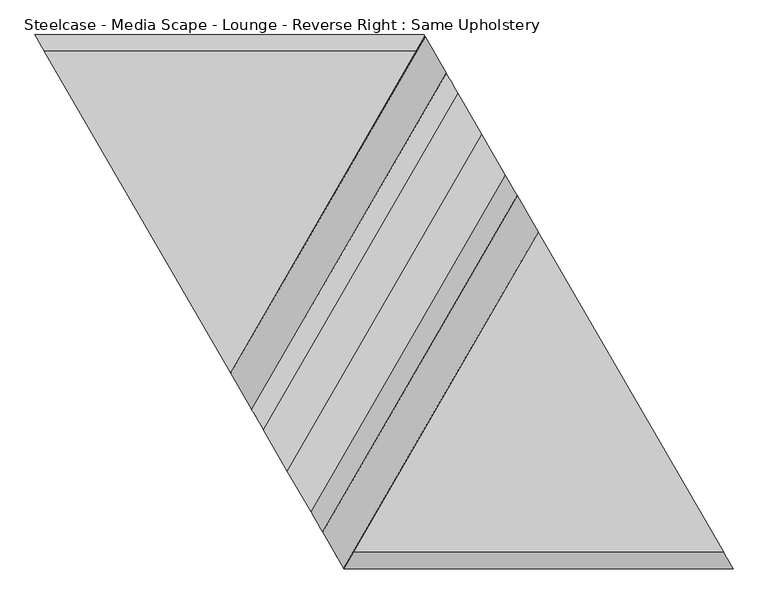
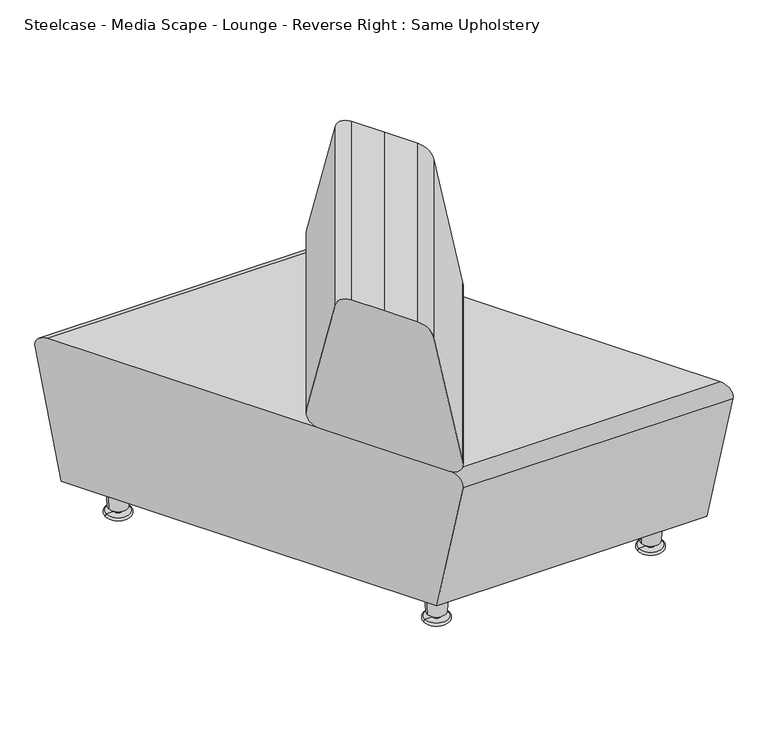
"""IFC4 building model written with IfcOpenShell, lengths in millimetres: furniture geometry, Steelcase - Media Scape - Lounge - Reverse Right : Same Upholstery."""

from ifc_helpers import new_model, si_unit, point, frame, origin, place, context, project, spatial, polyline, circle_curve, ellipse_curve, trimmed, source, transform, mapped, element, save
from ifc_brep_helpers import plane_surface, cylinder_surface, revolved_surface, advanced_brep


def steelcase_media_scape_lounge_reverse_right_same_upholstery_5d3c57fe(model_context):
    return source(origin(), model_context, "Body", "AdvancedBrep", [
        advanced_brep(
        [(-733.1515703, 217.760641, 734.4994984), (-429.8477806, 743.0982149, 734.4994984), (-447.8105654, 774.1513316, 709.2242876), (-751.1143551, 248.8137578, 709.2242876), (-480.6348772, 830.896274, 436.5550069), (-783.9386669, 305.5587001, 436.5550069), (-465.4772182, 804.6925109, 404.2995226), (-768.7810079, 279.3549371, 404.2995226), (-392.5844661, 678.6793583, 404.2995226), (-695.8882558, 153.3417845, 404.2995226), (-319.5651722, 552.447447, 404.2995226), (-622.8689619, 27.1098731, 404.2995226), (-304.4075131, 526.243684, 436.5550069), (-607.7113028, 0.9061101, 436.5550069), (-337.231825, 582.9886263, 709.2242876), (-640.5356147, 57.6510524, 709.2242876), (-355.1946098, 614.041743, 734.4994984), (-658.4983994, 88.7041692, 734.4994984), (-392.1305336, 677.8946237, 734.4994984), (-695.4343233, 152.5570499, 734.4994984)],
        [
            (0, 1),
            (1, 2, ellipse_curve(frame((-429.8477806, 743.0982149, 702.7494984), z_axis=(-0.8656115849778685, -0.5007160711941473, 0.0), x_axis=(0.5007160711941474, -0.8656115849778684, 0.0)), 36.6442572, 31.75)),
            (2, 3),
            (3, 0, ellipse_curve(frame((-733.1515703, 217.760641, 702.7494984), z_axis=(0.8656115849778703, 0.5007160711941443, 0.0), x_axis=(0.5007160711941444, -0.8656115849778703, 0.0)), 36.6442572, 31.75)),
            (2, 4),
            (4, 5),
            (5, 3),
            (4, 6, ellipse_curve(frame((-465.4772182, 804.6925109, 431.0913414), z_axis=(-0.8656115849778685, -0.5007160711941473, 0.0), x_axis=(0.5007160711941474, -0.8656115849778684, 0.0)), 30.9217732, 26.7918188)),
            (6, 7),
            (7, 5, ellipse_curve(frame((-768.7810079, 279.3549371, 431.0913414), z_axis=(0.8656115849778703, 0.5007160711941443, 0.0), x_axis=(0.5007160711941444, -0.8656115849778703, 0.0)), 30.9217732, 26.7918188)),
            (6, 8),
            (8, 9),
            (9, 7),
            (8, 10),
            (10, 11),
            (11, 9),
            (10, 12, ellipse_curve(frame((-319.5651722, 552.447447, 431.0913414), z_axis=(-0.8656115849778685, -0.5007160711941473, 0.0), x_axis=(0.5007160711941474, -0.8656115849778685, 0.0)), 30.9217732, 26.7918188)),
            (12, 13),
            (13, 11, ellipse_curve(frame((-622.8689619, 27.1098731, 431.0913414), z_axis=(0.8656115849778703, 0.5007160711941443, 0.0), x_axis=(0.5007160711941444, -0.8656115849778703, 0.0)), 30.9217732, 26.7918188)),
            (12, 14),
            (14, 15),
            (15, 13),
            (14, 16, ellipse_curve(frame((-355.1946098, 614.041743, 702.7494984), z_axis=(-0.8656115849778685, -0.5007160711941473, 0.0), x_axis=(0.5007160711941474, -0.8656115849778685, 0.0)), 36.6442572, 31.75)),
            (16, 17),
            (17, 15, ellipse_curve(frame((-658.4983994, 88.7041692, 702.7494984), z_axis=(0.8656115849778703, 0.5007160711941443, 0.0), x_axis=(0.5007160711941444, -0.8656115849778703, 0.0)), 36.6442572, 31.75)),
            (16, 18),
            (18, 19),
            (19, 17),
            (0, 19),
            (18, 1),
        ],
        [
            cylinder_surface(frame((-403.3023082, 789.0763219, 702.7494984), z_axis=(-0.49999999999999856, -0.8660254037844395, 0.0), x_axis=(-0.8660254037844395, 0.49999999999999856, 0.0)), 31.75),
            plane_surface(frame((-823.2526585, 123.8665511, 709.2242876), z_axis=(-0.8478262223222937, 0.489492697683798, 0.20393036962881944), x_axis=(0.49999999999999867, 0.8660254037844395, 0.0))),
            cylinder_surface(frame((-456.6954989, 819.902895, 431.0913414), z_axis=(-0.49999999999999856, -0.8660254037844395, 0.0), x_axis=(-0.8660254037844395, 0.49999999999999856, 0.0)), 26.7918188),
            plane_surface(frame((-849.7273666, 139.151731, 404.2995226), z_axis=(0.0, 0.0, -1.0), x_axis=(0.4999999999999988, 0.8660254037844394, 0.0))),
            plane_surface(frame((-740.4925069, 76.0849553, 404.2995226), z_axis=(0.0, 0.0, -1.0), x_axis=(0.49999999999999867, 0.8660254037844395, 0.0))),
            cylinder_surface(frame((-238.0361477, 693.6598597, 431.0913414), z_axis=(-0.4999999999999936, -0.8660254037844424, 0.0), x_axis=(0.8660254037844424, -0.4999999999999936, 0.0)), 26.7918188),
            plane_surface(frame((-608.353209, -0.2057039, 436.5550069), z_axis=(0.8478262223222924, -0.4894926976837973, 0.20393036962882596), x_axis=(0.49999999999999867, 0.8660254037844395, 0.0))),
            cylinder_surface(frame((-291.4293384, 724.4864327, 702.7494984), z_axis=(-0.4999999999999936, -0.8660254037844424, 0.0), x_axis=(0.8660254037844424, -0.4999999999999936, 0.0)), 31.75),
            plane_surface(frame((-684.4612062, 43.7352688, 734.4994984), z_axis=(0.0, 0.0, 1.0), x_axis=(0.4999999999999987, 0.8660254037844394, 0.0))),
            plane_surface(frame((-739.8122575, 75.6922131, 734.4994984), z_axis=(0.0, 0.0, 1.0), x_axis=(0.4999999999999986, 0.8660254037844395, 0.0))),
            plane_surface(frame((-281.4622448, -563.0960868, 914.4), z_axis=(-0.8656115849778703, -0.5007160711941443, 0.0), x_axis=(0.0, 0.0, -1.0))),
            plane_surface(frame((-511.7600957, 884.7039132, 914.4), z_axis=(0.8656115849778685, 0.5007160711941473, 0.0), x_axis=(0.0, 0.0, -1.0))),
        ],
        [
            (0, [[1, 2, 3, 4]]),
            (1, [[-3, 5, 6, 7]]),
            (2, [[-6, 8, 9, 10]]),
            (3, [[-9, 11, 12, 13]]),
            (4, [[-12, 14, 15, 16]]),
            (5, [[-15, 17, 18, 19]]),
            (6, [[-18, 20, 21, 22]]),
            (7, [[-21, 23, 24, 25]]),
            (8, [[-24, 26, 27, 28]]),
            (9, [[-1, 29, -27, 30]]),
            (10, [[-4, -7, -10, -13, -16, -19, -22, -25, -28, -29]]),
            (11, [[-2, -30, -26, -23, -20, -17, -14, -11, -8, -5]]),
        ],
    ),
        advanced_brep(
        [(-1059.8466558, 782.5339068, 74.676), (-452.6594956, 782.5339068, 74.676), (-29.7158278, 51.3711588, 74.676), (-636.9029881, 51.3711588, 74.676), (-0.234325, 0.4050887, 374.7917281), (-607.4214852, 0.4050887, 374.7917281), (-14.7196556, 25.4465658, 404.4443065), (-621.9068159, 25.4465658, 404.4443065), (-467.6556677, 808.4584998, 404.4443065), (-1074.842828, 808.4584998, 404.4443065), (-482.1409984, 833.4999769, 374.7917281), (-1089.3281586, 833.4999769, 374.7917281)],
        [
            (0, 1),
            (1, 2),
            (2, 3),
            (3, 0),
            (2, 4),
            (4, 5),
            (5, 3),
            (4, 6, ellipse_curve(frame((-14.7196556, 25.4465658, 379.0443065), z_axis=(-0.8656115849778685, -0.5007160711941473, 0.0), x_axis=(-0.5007160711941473, 0.8656115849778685, 0.0)), 29.343415, 25.4)),
            (6, 7),
            (7, 5, ellipse_curve(frame((-621.9068159, 25.4465658, 379.0443065), z_axis=(0.8656115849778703, 0.5007160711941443, 0.0), x_axis=(-0.5007160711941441, 0.8656115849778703, 0.0)), 29.343415, 25.4)),
            (6, 8),
            (8, 9),
            (9, 7),
            (8, 10, ellipse_curve(frame((-467.6556677, 808.4584998, 379.0443065), z_axis=(-0.8656115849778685, -0.5007160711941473, 0.0), x_axis=(-0.5007160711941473, 0.8656115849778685, 0.0)), 29.343415, 25.4)),
            (10, 11),
            (11, 9, ellipse_curve(frame((-1074.842828, 808.4584998, 379.0443065), z_axis=(0.8656115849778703, 0.5007160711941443, 0.0), x_axis=(-0.5007160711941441, 0.8656115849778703, 0.0)), 29.343415, 25.4)),
            (0, 11),
            (10, 1),
        ],
        [
            plane_surface(frame((-1094.6230669, 782.5339068, 74.676), z_axis=(0.0, 0.0, -1.0), x_axis=(1.0, 0.0, 0.0))),
            plane_surface(frame((-1094.6230669, 51.3711588, 74.676), z_axis=(0.0, -0.9858849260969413, -0.16742434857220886), x_axis=(1.0, 0.0, 0.0))),
            cylinder_surface(frame((0.0, 25.4465658, 379.0443065), z_axis=(-1.0, 0.0, 0.0), x_axis=(0.0, -1.0, 0.0)), 25.4),
            plane_surface(frame((-1094.6230669, 25.4465658, 404.4443065), z_axis=(0.0, 0.0, 1.0), x_axis=(1.0, 0.0, 0.0))),
            cylinder_surface(frame((0.0, 808.4584998, 379.0443065), z_axis=(-1.0, 0.0, 0.0), x_axis=(0.0, 1.0, 0.0)), 25.4),
            plane_surface(frame((-1094.6230669, 833.4999769, 374.7917281), z_axis=(0.0, 0.9858849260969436, -0.16742434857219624), x_axis=(1.0, 0.0, 0.0))),
            plane_surface(frame((-281.4622448, -563.0960868, 914.4), z_axis=(-0.8656115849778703, -0.5007160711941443, 0.0), x_axis=(0.0, 0.0, -1.0))),
            plane_surface(frame((-511.7600957, 884.7039132, 914.4), z_axis=(0.8656115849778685, 0.5007160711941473, 0.0), x_axis=(0.0, 0.0, -1.0))),
        ],
        [
            (0, [[1, 2, 3, 4]]),
            (1, [[-3, 5, 6, 7]]),
            (2, [[-6, 8, 9, 10]]),
            (3, [[-9, 11, 12, 13]]),
            (4, [[-12, 14, 15, 16]]),
            (5, [[-1, 17, -15, 18]]),
            (6, [[-4, -7, -10, -13, -16, -17]]),
            (7, [[-2, -18, -14, -11, -8, -5]]),
        ],
    ),
        advanced_brep(
        [(-943.0462782, 727.1583042, 17.057519), (-984.9565107, 727.1583042, 17.057519), (-987.7883146, 727.1583042, 74.1561731), (-940.2144743, 727.1583042, 74.1561731), (-954.4763944, 727.1583042, 17.057519), (-973.5263944, 727.1583042, 17.057519), (-954.4763944, 727.1583042, 6.3788302), (-973.5263944, 727.1583042, 6.3788302), (-937.9477522, 727.1583042, 6.3788302), (-990.0550367, 727.1583042, 6.3788302), (-937.9477522, 727.1583042, 0.0), (-990.0550367, 727.1583042, 0.0), (-964.0013944, 727.1583042, 0.0), (-964.0013944, 727.1583042, 74.1561731)],
        [
            (0, 1, circle_curve(frame((-964.0013944, 727.1583042, 17.057519), z_axis=(0.0, 0.0, 1.0), x_axis=(-1.0, 0.0, 0.0)), 20.9551163)),
            (1, 2),
            (2, 3, circle_curve(frame((-964.0013944, 727.1583042, 74.1561731), z_axis=(0.0, 0.0, -1.0), x_axis=(-1.0, 0.0, 0.0)), 23.7869202)),
            (3, 0),
            (1, 0, circle_curve(frame((-964.0013944, 727.1583042, 17.057519), z_axis=(0.0, 0.0, 1.0), x_axis=(-1.0, 0.0, 0.0)), 20.9551163)),
            (3, 2, circle_curve(frame((-964.0013944, 727.1583042, 74.1561731), z_axis=(0.0, 0.0, -1.0), x_axis=(-1.0, 0.0, 0.0)), 23.7869202)),
            (0, 4),
            (4, 5, circle_curve(frame((-964.0013944, 727.1583042, 17.057519), z_axis=(0.0, 0.0, 1.0), x_axis=(-1.0, 0.0, 0.0)), 9.525)),
            (5, 1),
            (5, 4, circle_curve(frame((-964.0013944, 727.1583042, 17.057519), z_axis=(0.0, 0.0, 1.0), x_axis=(-1.0, 0.0, 0.0)), 9.525)),
            (4, 6),
            (6, 7, circle_curve(frame((-964.0013944, 727.1583042, 6.3788302), z_axis=(0.0, 0.0, 1.0), x_axis=(-1.0, 0.0, 0.0)), 9.525)),
            (7, 5),
            (7, 6, circle_curve(frame((-964.0013944, 727.1583042, 6.3788302), z_axis=(0.0, 0.0, 1.0), x_axis=(-1.0, 0.0, 0.0)), 9.525)),
            (6, 8),
            (8, 9, circle_curve(frame((-964.0013944, 727.1583042, 6.3788302), z_axis=(0.0, 0.0, 1.0), x_axis=(-1.0, 0.0, 0.0)), 26.0536423)),
            (9, 7),
            (9, 8, circle_curve(frame((-964.0013944, 727.1583042, 6.3788302), z_axis=(0.0, 0.0, 1.0), x_axis=(-1.0, 0.0, 0.0)), 26.0536423)),
            (8, 10, circle_curve(frame((-937.9477522, 727.1583042, 3.1894151), z_axis=(0.0, 1.0, 0.0), x_axis=(1.0, 0.0, 0.0)), 3.1894151)),
            (10, 11, circle_curve(frame((-964.0013944, 727.1583042, 0.0), z_axis=(0.0, 0.0, 1.0), x_axis=(-1.0, 0.0, 0.0)), 26.0536423)),
            (11, 9, circle_curve(frame((-990.0550367, 727.1583042, 3.1894151), z_axis=(0.0, 1.0, 0.0), x_axis=(-1.0, 0.0, 0.0)), 3.1894151)),
            (11, 10, circle_curve(frame((-964.0013944, 727.1583042, 0.0), z_axis=(0.0, 0.0, 1.0), x_axis=(-1.0, 0.0, 0.0)), 26.0536423)),
            (10, 12),
            (12, 11),
            (2, 13),
            (13, 3),
        ],
        [
            revolved_surface(polyline([(-987.7883146, 727.1583042, 74.1561731), (-984.9565107, 727.1583042, 17.057519)]), (-964.0013944, 727.1583042, 61.4561731), (0.0, 0.0, -1.0)),
            plane_surface(frame((-964.0013944, 727.1583042, 17.057519), z_axis=(0.0, 0.0, -1.0), x_axis=(-1.0, 0.0, 0.0))),
            cylinder_surface(frame((-964.0013944, 727.1583042, 61.4561731), z_axis=(0.0, 0.0, -1.0), x_axis=(-1.0, 0.0, 0.0)), 9.525),
            plane_surface(frame((-964.0013944, 727.1583042, 6.3788302), z_axis=(0.0, 0.0, 1.0), x_axis=(-1.0, 0.0, 0.0))),
            revolved_surface(trimmed(ellipse_curve(frame((-990.0550367, 727.1583042, 3.1894151), z_axis=(0.0, -1.0, 0.0), x_axis=(-1.0, 0.0, 0.0)), 3.1894151, 3.1894151), [point((-990.0550367, 727.1583042, 6.3788302))], [point((-990.0550367, 727.1583042, 0.0))], True, "CARTESIAN"), (-964.0013944, 727.1583042, 61.4561731), (0.0, 0.0, -1.0)),
            plane_surface(frame((-964.0013944, 727.1583042, 0.0), z_axis=(0.0, 0.0, -1.0), x_axis=(-1.0, 0.0, 0.0))),
            plane_surface(frame((-964.0013944, 727.1583042, 74.1561731), z_axis=(0.0, 0.0, 1.0), x_axis=(-1.0, 0.0, 0.0))),
        ],
        [
            (0, [[1, 2, 3, 4]]),
            (0, [[-2, 5, -4, 6]]),
            (1, [[-1, 7, 8, 9]]),
            (1, [[-5, -9, 10, -7]]),
            (2, [[-8, 11, 12, 13]]),
            (2, [[-10, -13, 14, -11]]),
            (3, [[-12, 15, 16, 17]]),
            (3, [[-14, -17, 18, -15]]),
            (4, [[-16, 19, 20, 21]]),
            (4, [[-18, -21, 22, -19]]),
            (5, [[-20, 23, 24]]),
            (5, [[-22, -24, -23]]),
            (6, [[-3, 25, 26]]),
            (6, [[-6, -26, -25]]),
        ],
    ),
        advanced_brep(
        [(-461.2460355, 727.1583042, 17.057519), (-503.1562681, 727.1583042, 17.057519), (-505.988072, 727.1583042, 74.1561731), (-458.4142317, 727.1583042, 74.1561731), (-472.6761518, 727.1583042, 17.057519), (-491.7261518, 727.1583042, 17.057519), (-472.6761518, 727.1583042, 6.3788302), (-491.7261518, 727.1583042, 6.3788302), (-456.1475095, 727.1583042, 6.3788302), (-508.2547941, 727.1583042, 6.3788302), (-456.1475095, 727.1583042, 0.0), (-508.2547941, 727.1583042, 0.0), (-482.2011518, 727.1583042, 0.0), (-482.2011518, 727.1583042, 74.1561731)],
        [
            (0, 1, circle_curve(frame((-482.2011518, 727.1583042, 17.057519), z_axis=(0.0, 0.0, 1.0), x_axis=(-1.0, 0.0, 0.0)), 20.9551163)),
            (1, 2),
            (2, 3, circle_curve(frame((-482.2011518, 727.1583042, 74.1561731), z_axis=(0.0, 0.0, -1.0), x_axis=(-1.0, 0.0, 0.0)), 23.7869202)),
            (3, 0),
            (1, 0, circle_curve(frame((-482.2011518, 727.1583042, 17.057519), z_axis=(0.0, 0.0, 1.0), x_axis=(-1.0, 0.0, 0.0)), 20.9551163)),
            (3, 2, circle_curve(frame((-482.2011518, 727.1583042, 74.1561731), z_axis=(0.0, 0.0, -1.0), x_axis=(-1.0, 0.0, 0.0)), 23.7869202)),
            (0, 4),
            (4, 5, circle_curve(frame((-482.2011518, 727.1583042, 17.057519), z_axis=(0.0, 0.0, 1.0), x_axis=(-1.0, 0.0, 0.0)), 9.525)),
            (5, 1),
            (5, 4, circle_curve(frame((-482.2011518, 727.1583042, 17.057519), z_axis=(0.0, 0.0, 1.0), x_axis=(-1.0, 0.0, 0.0)), 9.525)),
            (4, 6),
            (6, 7, circle_curve(frame((-482.2011518, 727.1583042, 6.3788302), z_axis=(0.0, 0.0, 1.0), x_axis=(-1.0, 0.0, 0.0)), 9.525)),
            (7, 5),
            (7, 6, circle_curve(frame((-482.2011518, 727.1583042, 6.3788302), z_axis=(0.0, 0.0, 1.0), x_axis=(-1.0, 0.0, 0.0)), 9.525)),
            (6, 8),
            (8, 9, circle_curve(frame((-482.2011518, 727.1583042, 6.3788302), z_axis=(0.0, 0.0, 1.0), x_axis=(-1.0, 0.0, 0.0)), 26.0536423)),
            (9, 7),
            (9, 8, circle_curve(frame((-482.2011518, 727.1583042, 6.3788302), z_axis=(0.0, 0.0, 1.0), x_axis=(-1.0, 0.0, 0.0)), 26.0536423)),
            (8, 10, circle_curve(frame((-456.1475095, 727.1583042, 3.1894151), z_axis=(0.0, 1.0, 0.0), x_axis=(1.0, 0.0, 0.0)), 3.1894151)),
            (10, 11, circle_curve(frame((-482.2011518, 727.1583042, 0.0), z_axis=(0.0, 0.0, 1.0), x_axis=(-1.0, 0.0, 0.0)), 26.0536423)),
            (11, 9, circle_curve(frame((-508.2547941, 727.1583042, 3.1894151), z_axis=(0.0, 1.0, 0.0), x_axis=(-1.0, 0.0, 0.0)), 3.1894151)),
            (11, 10, circle_curve(frame((-482.2011518, 727.1583042, 0.0), z_axis=(0.0, 0.0, 1.0), x_axis=(-1.0, 0.0, 0.0)), 26.0536423)),
            (10, 12),
            (12, 11),
            (2, 13),
            (13, 3),
        ],
        [
            revolved_surface(polyline([(-505.988072, 727.1583042, 74.1561731), (-503.1562681, 727.1583042, 17.057519)]), (-482.2011518, 727.1583042, 61.4561731), (0.0, 0.0, -1.0)),
            plane_surface(frame((-482.2011518, 727.1583042, 17.057519), z_axis=(0.0, 0.0, -1.0), x_axis=(-1.0, 0.0, 0.0))),
            cylinder_surface(frame((-482.2011518, 727.1583042, 61.4561731), z_axis=(0.0, 0.0, -1.0), x_axis=(-1.0, 0.0, 0.0)), 9.525),
            plane_surface(frame((-482.2011518, 727.1583042, 6.3788302), z_axis=(0.0, 0.0, 1.0), x_axis=(-1.0, 0.0, 0.0))),
            revolved_surface(trimmed(ellipse_curve(frame((-508.2547941, 727.1583042, 3.1894151), z_axis=(0.0, -1.0, 0.0), x_axis=(-1.0, 0.0, 0.0)), 3.1894151, 3.1894151), [point((-508.2547941, 727.1583042, 6.3788302))], [point((-508.2547941, 727.1583042, 0.0))], True, "CARTESIAN"), (-482.2011518, 727.1583042, 61.4561731), (0.0, 0.0, -1.0)),
            plane_surface(frame((-482.2011518, 727.1583042, 0.0), z_axis=(0.0, 0.0, -1.0), x_axis=(-1.0, 0.0, 0.0))),
            plane_surface(frame((-482.2011518, 727.1583042, 74.1561731), z_axis=(0.0, 0.0, 1.0), x_axis=(-1.0, 0.0, 0.0))),
        ],
        [
            (0, [[1, 2, 3, 4]]),
            (0, [[-2, 5, -4, 6]]),
            (1, [[-1, 7, 8, 9]]),
            (1, [[-5, -9, 10, -7]]),
            (2, [[-8, 11, 12, 13]]),
            (2, [[-10, -13, 14, -11]]),
            (3, [[-12, 15, 16, 17]]),
            (3, [[-14, -17, 18, -15]]),
            (4, [[-16, 19, 20, 21]]),
            (4, [[-18, -21, 22, -19]]),
            (5, [[-20, 23, 24]]),
            (5, [[-22, -24, -23]]),
            (6, [[-3, 25, 26]]),
            (6, [[-6, -26, -25]]),
        ],
    ),
        advanced_brep(
        [(-584.810005, 106.9669449, 17.057519), (-626.7202375, 106.9669449, 17.057519), (-629.5520414, 106.9669449, 74.1561731), (-581.9782011, 106.9669449, 74.1561731), (-596.2401212, 106.9669449, 17.057519), (-615.2901212, 106.9669449, 17.057519), (-596.2401212, 106.9669449, 6.3788302), (-615.2901212, 106.9669449, 6.3788302), (-579.711479, 106.9669449, 6.3788302), (-631.8187635, 106.9669449, 6.3788302), (-579.711479, 106.9669449, 0.0), (-631.8187635, 106.9669449, 0.0), (-605.7651212, 106.9669449, 0.0), (-605.7651212, 106.9669449, 74.1561731)],
        [
            (0, 1, circle_curve(frame((-605.7651212, 106.9669449, 17.057519), z_axis=(0.0, 0.0, 1.0), x_axis=(-1.0, 0.0, 0.0)), 20.9551163)),
            (1, 2),
            (2, 3, circle_curve(frame((-605.7651212, 106.9669449, 74.1561731), z_axis=(0.0, 0.0, -1.0), x_axis=(-1.0, 0.0, 0.0)), 23.7869202)),
            (3, 0),
            (1, 0, circle_curve(frame((-605.7651212, 106.9669449, 17.057519), z_axis=(0.0, 0.0, 1.0), x_axis=(-1.0, 0.0, 0.0)), 20.9551163)),
            (3, 2, circle_curve(frame((-605.7651212, 106.9669449, 74.1561731), z_axis=(0.0, 0.0, -1.0), x_axis=(-1.0, 0.0, 0.0)), 23.7869202)),
            (0, 4),
            (4, 5, circle_curve(frame((-605.7651212, 106.9669449, 17.057519), z_axis=(0.0, 0.0, 1.0), x_axis=(-1.0, 0.0, 0.0)), 9.525)),
            (5, 1),
            (5, 4, circle_curve(frame((-605.7651212, 106.9669449, 17.057519), z_axis=(0.0, 0.0, 1.0), x_axis=(-1.0, 0.0, 0.0)), 9.525)),
            (4, 6),
            (6, 7, circle_curve(frame((-605.7651212, 106.9669449, 6.3788302), z_axis=(0.0, 0.0, 1.0), x_axis=(-1.0, 0.0, 0.0)), 9.525)),
            (7, 5),
            (7, 6, circle_curve(frame((-605.7651212, 106.9669449, 6.3788302), z_axis=(0.0, 0.0, 1.0), x_axis=(-1.0, 0.0, 0.0)), 9.525)),
            (6, 8),
            (8, 9, circle_curve(frame((-605.7651212, 106.9669449, 6.3788302), z_axis=(0.0, 0.0, 1.0), x_axis=(-1.0, 0.0, 0.0)), 26.0536423)),
            (9, 7),
            (9, 8, circle_curve(frame((-605.7651212, 106.9669449, 6.3788302), z_axis=(0.0, 0.0, 1.0), x_axis=(-1.0, 0.0, 0.0)), 26.0536423)),
            (8, 10, circle_curve(frame((-579.711479, 106.9669449, 3.1894151), z_axis=(0.0, 1.0, 0.0), x_axis=(1.0, 0.0, 0.0)), 3.1894151)),
            (10, 11, circle_curve(frame((-605.7651212, 106.9669449, 0.0), z_axis=(0.0, 0.0, 1.0), x_axis=(-1.0, 0.0, 0.0)), 26.0536423)),
            (11, 9, circle_curve(frame((-631.8187635, 106.9669449, 3.1894151), z_axis=(0.0, 1.0, 0.0), x_axis=(-1.0, 0.0, 0.0)), 3.1894151)),
            (11, 10, circle_curve(frame((-605.7651212, 106.9669449, 0.0), z_axis=(0.0, 0.0, 1.0), x_axis=(-1.0, 0.0, 0.0)), 26.0536423)),
            (10, 12),
            (12, 11),
            (2, 13),
            (13, 3),
        ],
        [
            revolved_surface(polyline([(-629.5520414, 106.9669449, 74.1561731), (-626.7202375, 106.9669449, 17.057519)]), (-605.7651212, 106.9669449, 61.4561731), (0.0, 0.0, -1.0)),
            plane_surface(frame((-605.7651212, 106.9669449, 17.057519), z_axis=(0.0, 0.0, -1.0), x_axis=(-1.0, 0.0, 0.0))),
            cylinder_surface(frame((-605.7651212, 106.9669449, 61.4561731), z_axis=(0.0, 0.0, -1.0), x_axis=(-1.0, 0.0, 0.0)), 9.525),
            plane_surface(frame((-605.7651212, 106.9669449, 6.3788302), z_axis=(0.0, 0.0, 1.0), x_axis=(-1.0, 0.0, 0.0))),
            revolved_surface(trimmed(ellipse_curve(frame((-631.8187635, 106.9669449, 3.1894151), z_axis=(0.0, -1.0, 0.0), x_axis=(-1.0, 0.0, 0.0)), 3.1894151, 3.1894151), [point((-631.8187635, 106.9669449, 6.3788302))], [point((-631.8187635, 106.9669449, 0.0))], True, "CARTESIAN"), (-605.7651212, 106.9669449, 61.4561731), (0.0, 0.0, -1.0)),
            plane_surface(frame((-605.7651212, 106.9669449, 0.0), z_axis=(0.0, 0.0, -1.0), x_axis=(-1.0, 0.0, 0.0))),
            plane_surface(frame((-605.7651212, 106.9669449, 74.1561731), z_axis=(0.0, 0.0, 1.0), x_axis=(-1.0, 0.0, 0.0))),
        ],
        [
            (0, [[1, 2, 3, 4]]),
            (0, [[-2, 5, -4, 6]]),
            (1, [[-1, 7, 8, 9]]),
            (1, [[-5, -9, 10, -7]]),
            (2, [[-8, 11, 12, 13]]),
            (2, [[-10, -13, 14, -11]]),
            (3, [[-12, 15, 16, 17]]),
            (3, [[-14, -17, 18, -15]]),
            (4, [[-16, 19, 20, 21]]),
            (4, [[-18, -21, 22, -19]]),
            (5, [[-20, 23, 24]]),
            (5, [[-22, -24, -23]]),
            (6, [[-3, 25, 26]]),
            (6, [[-6, -26, -25]]),
        ],
    ),
        advanced_brep(
        [(-103.0097624, 106.9669449, 17.057519), (-144.9199949, 106.9669449, 17.057519), (-147.7517988, 106.9669449, 74.1561731), (-100.1779585, 106.9669449, 74.1561731), (-114.4398786, 106.9669449, 17.057519), (-133.4898786, 106.9669449, 17.057519), (-114.4398786, 106.9669449, 6.3788302), (-133.4898786, 106.9669449, 6.3788302), (-97.9112364, 106.9669449, 6.3788302), (-150.0185209, 106.9669449, 6.3788302), (-97.9112364, 106.9669449, 0.0), (-150.0185209, 106.9669449, 0.0), (-123.9648786, 106.9669449, 0.0), (-123.9648786, 106.9669449, 74.1561731)],
        [
            (0, 1, circle_curve(frame((-123.9648786, 106.9669449, 17.057519), z_axis=(0.0, 0.0, 1.0), x_axis=(-1.0, 0.0, 0.0)), 20.9551163)),
            (1, 2),
            (2, 3, circle_curve(frame((-123.9648786, 106.9669449, 74.1561731), z_axis=(0.0, 0.0, -1.0), x_axis=(-1.0, 0.0, 0.0)), 23.7869202)),
            (3, 0),
            (1, 0, circle_curve(frame((-123.9648786, 106.9669449, 17.057519), z_axis=(0.0, 0.0, 1.0), x_axis=(-1.0, 0.0, 0.0)), 20.9551163)),
            (3, 2, circle_curve(frame((-123.9648786, 106.9669449, 74.1561731), z_axis=(0.0, 0.0, -1.0), x_axis=(-1.0, 0.0, 0.0)), 23.7869202)),
            (0, 4),
            (4, 5, circle_curve(frame((-123.9648786, 106.9669449, 17.057519), z_axis=(0.0, 0.0, 1.0), x_axis=(-1.0, 0.0, 0.0)), 9.525)),
            (5, 1),
            (5, 4, circle_curve(frame((-123.9648786, 106.9669449, 17.057519), z_axis=(0.0, 0.0, 1.0), x_axis=(-1.0, 0.0, 0.0)), 9.525)),
            (4, 6),
            (6, 7, circle_curve(frame((-123.9648786, 106.9669449, 6.3788302), z_axis=(0.0, 0.0, 1.0), x_axis=(-1.0, 0.0, 0.0)), 9.525)),
            (7, 5),
            (7, 6, circle_curve(frame((-123.9648786, 106.9669449, 6.3788302), z_axis=(0.0, 0.0, 1.0), x_axis=(-1.0, 0.0, 0.0)), 9.525)),
            (6, 8),
            (8, 9, circle_curve(frame((-123.9648786, 106.9669449, 6.3788302), z_axis=(0.0, 0.0, 1.0), x_axis=(-1.0, 0.0, 0.0)), 26.0536423)),
            (9, 7),
            (9, 8, circle_curve(frame((-123.9648786, 106.9669449, 6.3788302), z_axis=(0.0, 0.0, 1.0), x_axis=(-1.0, 0.0, 0.0)), 26.0536423)),
            (8, 10, circle_curve(frame((-97.9112364, 106.9669449, 3.1894151), z_axis=(0.0, 1.0, 0.0), x_axis=(1.0, 0.0, 0.0)), 3.1894151)),
            (10, 11, circle_curve(frame((-123.9648786, 106.9669449, 0.0), z_axis=(0.0, 0.0, 1.0), x_axis=(-1.0, 0.0, 0.0)), 26.0536423)),
            (11, 9, circle_curve(frame((-150.0185209, 106.9669449, 3.1894151), z_axis=(0.0, 1.0, 0.0), x_axis=(-1.0, 0.0, 0.0)), 3.1894151)),
            (11, 10, circle_curve(frame((-123.9648786, 106.9669449, 0.0), z_axis=(0.0, 0.0, 1.0), x_axis=(-1.0, 0.0, 0.0)), 26.0536423)),
            (10, 12),
            (12, 11),
            (2, 13),
            (13, 3),
        ],
        [
            revolved_surface(polyline([(-147.7517988, 106.9669449, 74.1561731), (-144.9199949, 106.9669449, 17.057519)]), (-123.9648786, 106.9669449, 61.4561731), (0.0, 0.0, -1.0)),
            plane_surface(frame((-123.9648786, 106.9669449, 17.057519), z_axis=(0.0, 0.0, -1.0), x_axis=(-1.0, 0.0, 0.0))),
            cylinder_surface(frame((-123.9648786, 106.9669449, 61.4561731), z_axis=(0.0, 0.0, -1.0), x_axis=(-1.0, 0.0, 0.0)), 9.525),
            plane_surface(frame((-123.9648786, 106.9669449, 6.3788302), z_axis=(0.0, 0.0, 1.0), x_axis=(-1.0, 0.0, 0.0))),
            revolved_surface(trimmed(ellipse_curve(frame((-150.0185209, 106.9669449, 3.1894151), z_axis=(0.0, -1.0, 0.0), x_axis=(-1.0, 0.0, 0.0)), 3.1894151, 3.1894151), [point((-150.0185209, 106.9669449, 6.3788302))], [point((-150.0185209, 106.9669449, 0.0))], True, "CARTESIAN"), (-123.9648786, 106.9669449, 61.4561731), (0.0, 0.0, -1.0)),
            plane_surface(frame((-123.9648786, 106.9669449, 0.0), z_axis=(0.0, 0.0, -1.0), x_axis=(-1.0, 0.0, 0.0))),
            plane_surface(frame((-123.9648786, 106.9669449, 74.1561731), z_axis=(0.0, 0.0, 1.0), x_axis=(-1.0, 0.0, 0.0))),
        ],
        [
            (0, [[1, 2, 3, 4]]),
            (0, [[-2, 5, -4, 6]]),
            (1, [[-1, 7, 8, 9]]),
            (1, [[-5, -9, 10, -7]]),
            (2, [[-8, 11, 12, 13]]),
            (2, [[-10, -13, 14, -11]]),
            (3, [[-12, 15, 16, 17]]),
            (3, [[-14, -17, 18, -15]]),
            (4, [[-16, 19, 20, 21]]),
            (4, [[-18, -21, 22, -19]]),
            (5, [[-20, 23, 24]]),
            (5, [[-22, -24, -23]]),
            (6, [[-3, 25, 26]]),
            (6, [[-6, -26, -25]]),
        ],
    ),
    ])


if __name__ == "__main__":
    model = new_model("IFC4")
    model_context = context("Model", 3, world=origin())
    ifc_project = project(units=[si_unit("LENGTHUNIT", "METRE", prefix="MILLI")], contexts=[model_context])
    site = spatial("IfcSite", under=ifc_project)
    building = spatial("IfcBuilding", under=site)
    placement = place(None, origin())
    steelcase_media_scape_lounge_reverse_right_same_upholstery_shape = steelcase_media_scape_lounge_reverse_right_same_upholstery_5d3c57fe(model_context)
    element("IfcFurniture", 1, ObjectType="Steelcase - Media Scape - Lounge - Reverse Right : Same Upholstery", at=placement, inside=building, context=model_context, shape_type="MappedRepresentation", body=[
        mapped(steelcase_media_scape_lounge_reverse_right_same_upholstery_shape, transform((0.0, 0.0, 0.0), x_axis=(1.0, 0.0, 0.0), y_axis=(0.0, 1.0, 0.0), z_axis=(0.0, 0.0, 1.0))),
    ])
    save(model, "model.ifc")
